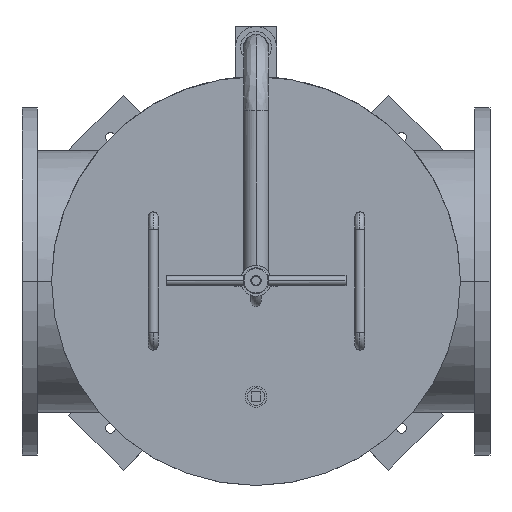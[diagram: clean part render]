
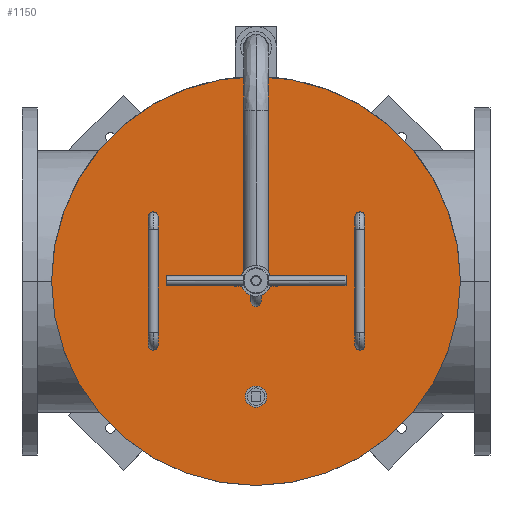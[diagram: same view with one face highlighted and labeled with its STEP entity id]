
A CAD part, top view. The second image highlights one B-rep face of the part: STEP entity #1150.
In plain terms, the highlighted planar face has unit normal (0, 0, 1).
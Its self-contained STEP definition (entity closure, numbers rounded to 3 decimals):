
#1150=ADVANCED_FACE('',(#1869,#1870,#1871,#1872,#1873,#1874,#1875,#1876),#1868,.T.);
#1868=PLANE('',#5894);
#1869=FACE_OUTER_BOUND('',#5895,.T.);
#1870=FACE_BOUND('',#5896,.T.);
#1871=FACE_BOUND('',#5897,.T.);
#1872=FACE_BOUND('',#5898,.T.);
#1873=FACE_BOUND('',#5899,.T.);
#1874=FACE_BOUND('',#5900,.T.);
#1875=FACE_BOUND('',#5901,.T.);
#1876=FACE_BOUND('',#5902,.T.);
#5891=CARTESIAN_POINT('',(-407.5,-698.49,545.));
#5892=DIRECTION('',(0.,0.,1.));
#5893=DIRECTION('',(1.,0.,0.));
#5894=AXIS2_PLACEMENT_3D('',#5891,#5892,#5893);
#5895=EDGE_LOOP('',(#9963,#9964));
#5896=EDGE_LOOP('',(#9965,#9966));
#5897=EDGE_LOOP('',(#9967,#9968));
#5898=EDGE_LOOP('',(#9969,#9970));
#5899=EDGE_LOOP('',(#9971,#9972));
#5900=EDGE_LOOP('',(#9973,#9974));
#5901=EDGE_LOOP('',(#9975,#9976));
#5902=EDGE_LOOP('',(#9977,#9978));
#9963=ORIENTED_EDGE('',*,*,#11996,.F.);
#9964=ORIENTED_EDGE('',*,*,#11997,.F.);
#9965=ORIENTED_EDGE('',*,*,#11998,.F.);
#9966=ORIENTED_EDGE('',*,*,#11999,.F.);
#9967=ORIENTED_EDGE('',*,*,#12000,.F.);
#9968=ORIENTED_EDGE('',*,*,#12001,.F.);
#9969=ORIENTED_EDGE('',*,*,#12002,.F.);
#9970=ORIENTED_EDGE('',*,*,#12003,.F.);
#9971=ORIENTED_EDGE('',*,*,#12004,.F.);
#9972=ORIENTED_EDGE('',*,*,#12005,.F.);
#9973=ORIENTED_EDGE('',*,*,#12006,.F.);
#9974=ORIENTED_EDGE('',*,*,#12007,.F.);
#9975=ORIENTED_EDGE('',*,*,#12008,.F.);
#9976=ORIENTED_EDGE('',*,*,#12009,.F.);
#9977=ORIENTED_EDGE('',*,*,#12010,.F.);
#9978=ORIENTED_EDGE('',*,*,#12011,.F.);
#11996=EDGE_CURVE('',#13974,#13975,#13976,.T.);
#11997=EDGE_CURVE('',#13975,#13974,#13982,.T.);
#11998=EDGE_CURVE('',#13988,#13989,#13990,.T.);
#11999=EDGE_CURVE('',#13989,#13988,#13996,.T.);
#12000=EDGE_CURVE('',#14002,#14003,#14004,.T.);
#12001=EDGE_CURVE('',#14003,#14002,#14010,.T.);
#12002=EDGE_CURVE('',#14016,#14017,#14018,.T.);
#12003=EDGE_CURVE('',#14017,#14016,#14024,.T.);
#12004=EDGE_CURVE('',#14030,#14031,#14032,.T.);
#12005=EDGE_CURVE('',#14031,#14030,#14038,.T.);
#12006=EDGE_CURVE('',#14044,#14045,#14046,.T.);
#12007=EDGE_CURVE('',#14045,#14044,#14052,.T.);
#12008=EDGE_CURVE('',#14058,#14059,#14060,.T.);
#12009=EDGE_CURVE('',#14059,#14058,#14066,.T.);
#12010=EDGE_CURVE('',#14072,#14073,#14074,.T.);
#12011=EDGE_CURVE('',#14073,#14072,#14080,.T.);
#13974=VERTEX_POINT('',#20505);
#13975=VERTEX_POINT('',#20506);
#13976=CIRCLE('',#20510,397.5);
#13982=CIRCLE('',#20514,397.5);
#13988=VERTEX_POINT('',#20515);
#13989=VERTEX_POINT('',#20516);
#13990=CIRCLE('',#20520,2.);
#13996=CIRCLE('',#20524,2.);
#14002=VERTEX_POINT('',#20525);
#14003=VERTEX_POINT('',#20526);
#14004=CIRCLE('',#20530,2.);
#14010=CIRCLE('',#20534,2.);
#14016=VERTEX_POINT('',#20535);
#14017=VERTEX_POINT('',#20536);
#14018=CIRCLE('',#20540,2.);
#14024=CIRCLE('',#20544,2.);
#14030=VERTEX_POINT('',#20545);
#14031=VERTEX_POINT('',#20546);
#14032=CIRCLE('',#20550,2.);
#14038=CIRCLE('',#20554,2.);
#14044=VERTEX_POINT('',#20555);
#14045=VERTEX_POINT('',#20556);
#14046=CIRCLE('',#20560,2.);
#14052=CIRCLE('',#20564,2.);
#14058=VERTEX_POINT('',#20565);
#14059=VERTEX_POINT('',#20566);
#14060=CIRCLE('',#20570,20.75);
#14066=CIRCLE('',#20574,20.75);
#14072=VERTEX_POINT('',#20575);
#14073=VERTEX_POINT('',#20576);
#14074=CIRCLE('',#20580,2.);
#14080=CIRCLE('',#20584,2.);
#20505=CARTESIAN_POINT('',(397.5,0.,545.));
#20506=CARTESIAN_POINT('',(-397.5,0.,545.));
#20507=CARTESIAN_POINT('',(0.,0.,545.));
#20508=DIRECTION('',(0.,0.,-1.));
#20509=DIRECTION('',(-1.,0.,0.));
#20510=AXIS2_PLACEMENT_3D('',#20507,#20508,#20509);
#20511=CARTESIAN_POINT('',(0.,0.,545.));
#20512=DIRECTION('',(0.,0.,-1.));
#20513=DIRECTION('',(-1.,0.,0.));
#20514=AXIS2_PLACEMENT_3D('',#20511,#20512,#20513);
#20515=CARTESIAN_POINT('',(42.,0.,545.));
#20516=CARTESIAN_POINT('',(38.,0.,545.));
#20517=CARTESIAN_POINT('',(40.,0.,545.));
#20518=DIRECTION('',(0.,0.,1.));
#20519=DIRECTION('',(-1.,0.,0.));
#20520=AXIS2_PLACEMENT_3D('',#20517,#20518,#20519);
#20521=CARTESIAN_POINT('',(40.,0.,545.));
#20522=DIRECTION('',(0.,0.,1.));
#20523=DIRECTION('',(-1.,0.,0.));
#20524=AXIS2_PLACEMENT_3D('',#20521,#20522,#20523);
#20525=CARTESIAN_POINT('',(202.,125.,545.));
#20526=CARTESIAN_POINT('',(198.,125.,545.));
#20527=CARTESIAN_POINT('',(200.,125.,545.));
#20528=DIRECTION('',(0.,0.,1.));
#20529=DIRECTION('',(-1.,0.,0.));
#20530=AXIS2_PLACEMENT_3D('',#20527,#20528,#20529);
#20531=CARTESIAN_POINT('',(200.,125.,545.));
#20532=DIRECTION('',(0.,0.,1.));
#20533=DIRECTION('',(-1.,0.,0.));
#20534=AXIS2_PLACEMENT_3D('',#20531,#20532,#20533);
#20535=CARTESIAN_POINT('',(-198.,-125.,545.));
#20536=CARTESIAN_POINT('',(-202.,-125.,545.));
#20537=CARTESIAN_POINT('',(-200.,-125.,545.));
#20538=DIRECTION('',(0.,0.,1.));
#20539=DIRECTION('',(-1.,0.,0.));
#20540=AXIS2_PLACEMENT_3D('',#20537,#20538,#20539);
#20541=CARTESIAN_POINT('',(-200.,-125.,545.));
#20542=DIRECTION('',(0.,0.,1.));
#20543=DIRECTION('',(-1.,0.,0.));
#20544=AXIS2_PLACEMENT_3D('',#20541,#20542,#20543);
#20545=CARTESIAN_POINT('',(-198.,125.,545.));
#20546=CARTESIAN_POINT('',(-202.,125.,545.));
#20547=CARTESIAN_POINT('',(-200.,125.,545.));
#20548=DIRECTION('',(0.,0.,1.));
#20549=DIRECTION('',(-1.,0.,0.));
#20550=AXIS2_PLACEMENT_3D('',#20547,#20548,#20549);
#20551=CARTESIAN_POINT('',(-200.,125.,545.));
#20552=DIRECTION('',(0.,0.,1.));
#20553=DIRECTION('',(-1.,0.,0.));
#20554=AXIS2_PLACEMENT_3D('',#20551,#20552,#20553);
#20555=CARTESIAN_POINT('',(202.,-125.,545.));
#20556=CARTESIAN_POINT('',(198.,-125.,545.));
#20557=CARTESIAN_POINT('',(200.,-125.,545.));
#20558=DIRECTION('',(0.,0.,1.));
#20559=DIRECTION('',(-1.,0.,0.));
#20560=AXIS2_PLACEMENT_3D('',#20557,#20558,#20559);
#20561=CARTESIAN_POINT('',(200.,-125.,545.));
#20562=DIRECTION('',(0.,0.,1.));
#20563=DIRECTION('',(-1.,0.,0.));
#20564=AXIS2_PLACEMENT_3D('',#20561,#20562,#20563);
#20565=CARTESIAN_POINT('',(-20.75,-225.,545.));
#20566=CARTESIAN_POINT('',(20.75,-225.,545.));
#20567=CARTESIAN_POINT('',(0.,-225.,545.));
#20568=DIRECTION('',(0.,0.,1.));
#20569=DIRECTION('',(1.,0.,0.));
#20570=AXIS2_PLACEMENT_3D('',#20567,#20568,#20569);
#20571=CARTESIAN_POINT('',(0.,-225.,545.));
#20572=DIRECTION('',(0.,0.,1.));
#20573=DIRECTION('',(1.,0.,0.));
#20574=AXIS2_PLACEMENT_3D('',#20571,#20572,#20573);
#20575=CARTESIAN_POINT('',(-38.,0.,545.));
#20576=CARTESIAN_POINT('',(-42.,0.,545.));
#20577=CARTESIAN_POINT('',(-40.,0.,545.));
#20578=DIRECTION('',(0.,0.,1.));
#20579=DIRECTION('',(-1.,0.,0.));
#20580=AXIS2_PLACEMENT_3D('',#20577,#20578,#20579);
#20581=CARTESIAN_POINT('',(-40.,0.,545.));
#20582=DIRECTION('',(0.,0.,1.));
#20583=DIRECTION('',(-1.,0.,0.));
#20584=AXIS2_PLACEMENT_3D('',#20581,#20582,#20583);
